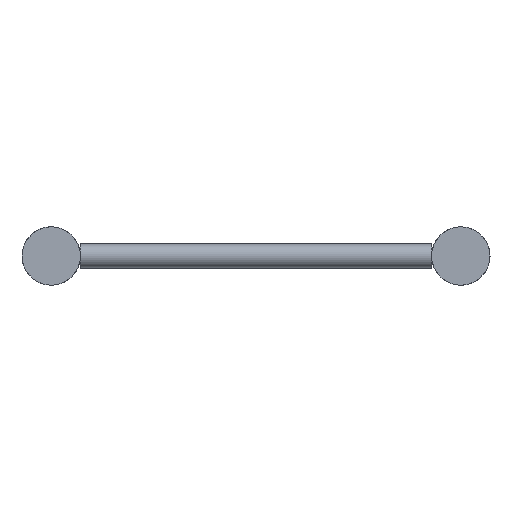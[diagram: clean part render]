
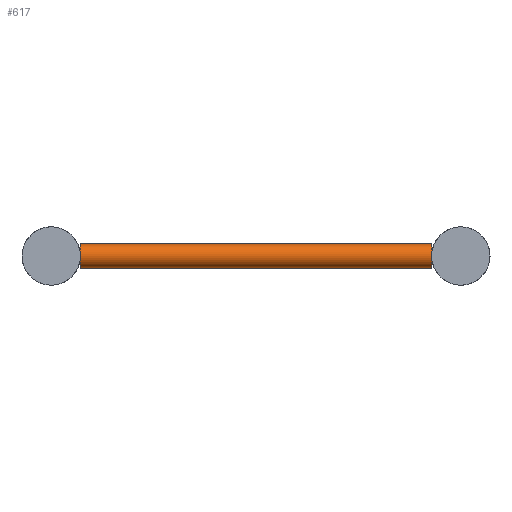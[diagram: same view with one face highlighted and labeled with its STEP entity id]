
A CAD part, left-side view. The second image highlights one B-rep face of the part: STEP entity #617.
In plain terms, the highlighted cylindrical face has radius 10 mm (diameter 20 mm), a full revolution.
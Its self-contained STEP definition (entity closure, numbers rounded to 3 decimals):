
#53=CIRCLE('',#681,10.);
#54=CIRCLE('',#683,10.);
#55=CIRCLE('',#685,10.);
#56=CIRCLE('',#687,10.);
#88=FACE_BOUND('',#218,.T.);
#129=CYLINDRICAL_SURFACE('',#686,10.);
#161=FACE_OUTER_BOUND('',#217,.T.);
#217=EDGE_LOOP('',(#432,#433));
#218=EDGE_LOOP('',(#434,#435));
#298=VERTEX_POINT('',#963);
#299=VERTEX_POINT('',#964);
#300=VERTEX_POINT('',#968);
#301=VERTEX_POINT('',#969);
#355=EDGE_CURVE('',#299,#298,#53,.T.);
#357=EDGE_CURVE('',#301,#300,#54,.T.);
#358=EDGE_CURVE('',#298,#299,#55,.T.);
#359=EDGE_CURVE('',#300,#301,#56,.T.);
#432=ORIENTED_EDGE('',*,*,#355,.T.);
#433=ORIENTED_EDGE('',*,*,#358,.T.);
#434=ORIENTED_EDGE('',*,*,#357,.T.);
#435=ORIENTED_EDGE('',*,*,#359,.T.);
#617=ADVANCED_FACE('',(#161,#88),#129,.T.);
#681=AXIS2_PLACEMENT_3D('',#966,#801,#802);
#683=AXIS2_PLACEMENT_3D('',#971,#806,#807);
#685=AXIS2_PLACEMENT_3D('',#973,#810,#811);
#686=AXIS2_PLACEMENT_3D('',#974,#812,#813);
#687=AXIS2_PLACEMENT_3D('',#975,#814,#815);
#801=DIRECTION('center_axis',(0.,1.,0.));
#802=DIRECTION('ref_axis',(-1.,0.,0.));
#806=DIRECTION('center_axis',(0.,-1.,0.));
#807=DIRECTION('ref_axis',(-1.,0.,0.));
#810=DIRECTION('center_axis',(0.,1.,0.));
#811=DIRECTION('ref_axis',(-1.,0.,0.));
#812=DIRECTION('center_axis',(0.,1.,0.));
#813=DIRECTION('ref_axis',(-1.,0.,0.));
#814=DIRECTION('center_axis',(0.,-1.,0.));
#815=DIRECTION('ref_axis',(-1.,0.,0.));
#963=CARTESIAN_POINT('',(50.,24.15,0.));
#964=CARTESIAN_POINT('',(70.,24.15,0.));
#966=CARTESIAN_POINT('Origin',(60.,24.15,0.));
#968=CARTESIAN_POINT('',(50.,314.85,0.));
#969=CARTESIAN_POINT('',(70.,314.85,0.));
#971=CARTESIAN_POINT('Origin',(60.,314.85,0.));
#973=CARTESIAN_POINT('Origin',(60.,24.15,0.));
#974=CARTESIAN_POINT('Origin',(60.,169.5,0.));
#975=CARTESIAN_POINT('Origin',(60.,314.85,0.));
